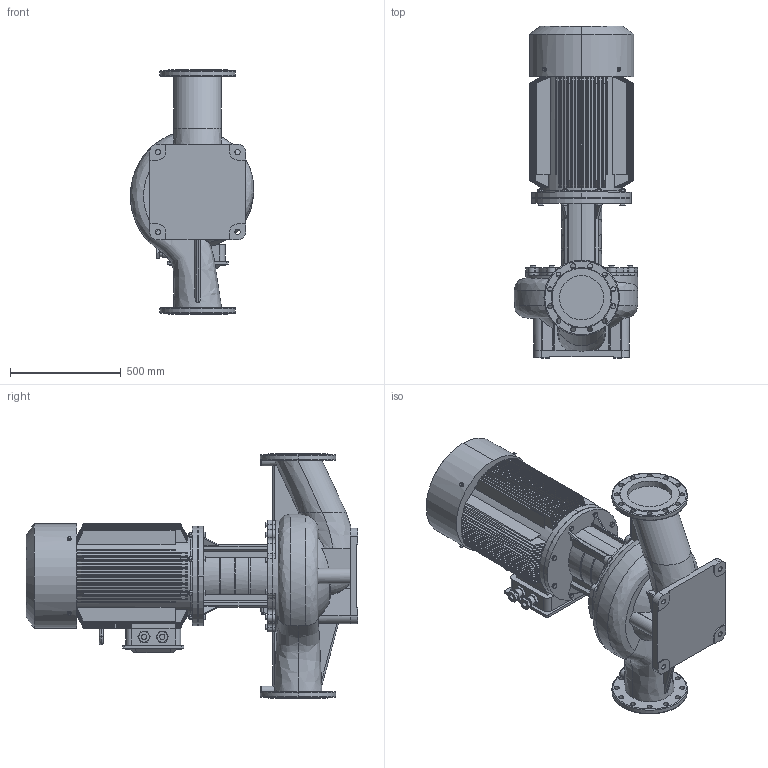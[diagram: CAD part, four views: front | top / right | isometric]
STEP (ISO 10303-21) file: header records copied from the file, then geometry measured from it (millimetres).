
FILE_DESCRIPTION (( 'STEP AP203' ), '1' );
FILE_NAME ('TD200-27 30G／4.STEP', '2026-09-07T03:08:27', ( '' ), ( '' ), 'SwSTEP 2.0', 'SolidWorks 2020', '' );
FILE_SCHEMA (( 'CONFIG_CONTROL_DESIGN' ));
Products named in the file (1): TD200-27 30G／4
Bounding box: 556.06 x 1496 x 1100 mm (x, y, z)
Volume: 223483050.5 mm3; surface area: 8078557.2 mm2
Topology: 1 solids, 13 shells, 1869 faces, 4731 edges, 2995 vertices
Faces by surface type: plane 802, cylinder 508, cone 462, torus 53, bspline 44
Entity records: 80989 total; most frequent: CARTESIAN_POINT 36911, ORIENTED_EDGE 9458, DIRECTION 8903, EDGE_CURVE 4729, AXIS2_PLACEMENT_3D 3549, VERTEX_POINT 2995, EDGE_LOOP 2054, FACE_OUTER_BOUND 1869
